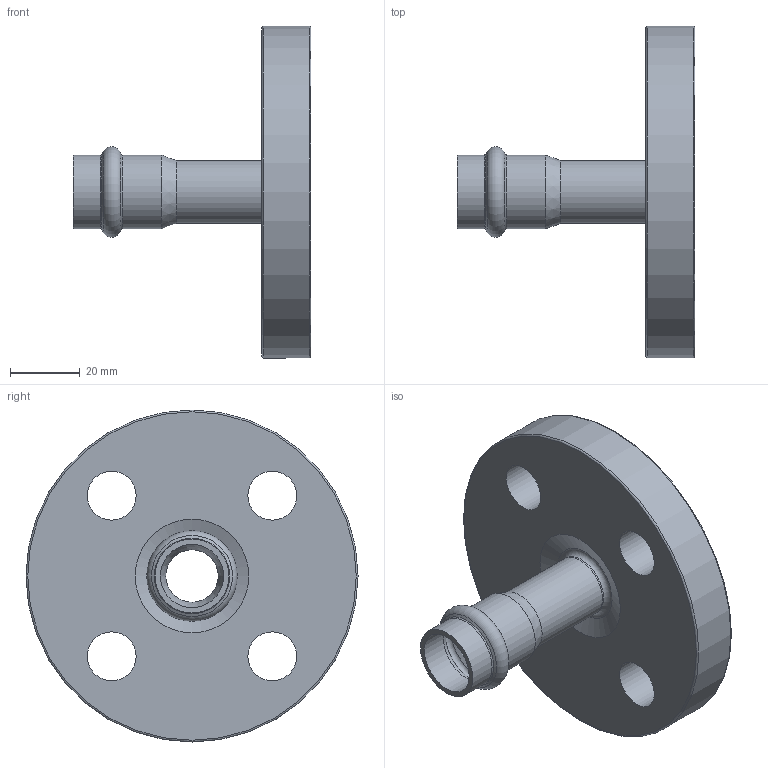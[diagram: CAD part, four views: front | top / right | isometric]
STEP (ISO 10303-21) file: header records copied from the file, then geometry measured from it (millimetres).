
FILE_DESCRIPTION((''),'2;1');
FILE_NAME('G:\Nirosan-Schmiedefeld\Technics\CAD\Bauteile VA\018\6VAPF18(1).stp','2011-10-26T13:30:23',('herberg'),(''),'Autodesk Inventor 2009','Autodesk Inventor 2009','');
FILE_SCHEMA(('AUTOMOTIVE_DESIGN { 1 0 10303 214 1 1 1 1 }'));
Length unit declared in the file: millimetre
Products named in the file (3): 6VAPF18(1); HM_6VAPF18(1); Flansch18(3)
Assembly tree (2 placements, depth 2):
  6VAPF18(1)
    HM_6VAPF18(1)
    Flansch18(3)
Bounding box: 68 x 95 x 95 mm (x, y, z)
Volume: 92407.7 mm3; surface area: 26607.6 mm2
Topology: 2 solids, 2 shells, 32 faces, 65 edges, 38 vertices
Faces by surface type: cylinder 13, cone 5, torus 5, plane 5, bspline 4
Full cylindrical faces by diameter (mm): 14 x4, 15 x2, 18 x2, 18.15 x2, 21.15 x2, 95 x1
Entity records: 950 total; most frequent: CARTESIAN_POINT 285, DIRECTION 138, ORIENTED_EDGE 72, EDGE_LOOP 72, AXIS2_PLACEMENT_3D 69, FACE_BOUND 40, VERTEX_POINT 36, CIRCLE 36
